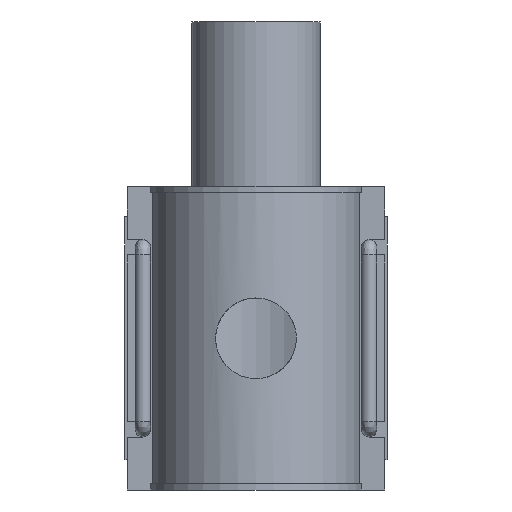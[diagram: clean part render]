
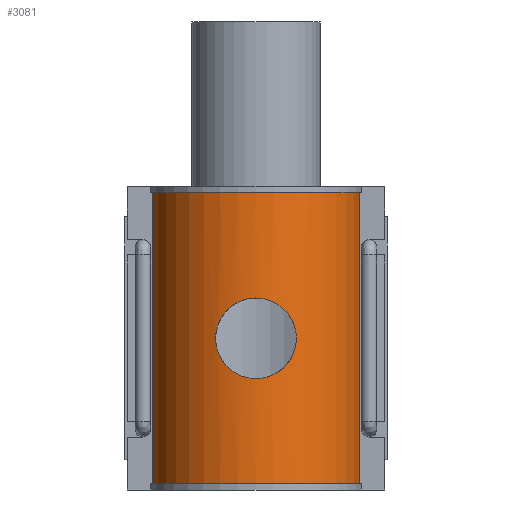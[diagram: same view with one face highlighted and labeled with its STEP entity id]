
A CAD part, front view. The second image highlights one B-rep face of the part: STEP entity #3081.
In plain terms, the highlighted cylindrical face has radius 40.95 mm (diameter 81.9 mm), a partial arc.
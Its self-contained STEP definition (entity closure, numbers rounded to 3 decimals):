
#42=FACE_BOUND('',#417,.T.);
#182=B_SPLINE_CURVE_WITH_KNOTS('',3,(#4557,#4558,#4559,#4560,#4561,#4562,
#4563,#4564,#4565,#4566,#4567,#4568,#4569,#4570,#4571,#4572,#4573,#4574,
#4575,#4576,#4577,#4578,#4579,#4580,#4581,#4582),.UNSPECIFIED.,.F.,.F.,
(4,2,2,2,2,2,2,2,2,2,2,2,4),(0.,0.299,0.598,1.195,
1.792,2.091,2.389,2.688,2.986,
3.583,4.181,4.48,4.779),
 .UNSPECIFIED.);
#183=B_SPLINE_CURVE_WITH_KNOTS('',3,(#4583,#4584,#4585,#4586,#4587,#4588,
#4589,#4590,#4591,#4592,#4593,#4594,#4595,#4596,#4597,#4598,#4599,#4600,
#4601,#4602,#4603,#4604,#4605,#4606,#4607,#4608),.UNSPECIFIED.,.F.,.F.,
(4,2,2,2,2,2,2,2,2,2,2,2,4),(4.779,5.077,5.376,
5.974,6.571,6.869,7.168,7.466,
7.765,8.362,8.959,9.258,9.557),
 .UNSPECIFIED.);
#232=FACE_OUTER_BOUND('',#416,.T.);
#416=EDGE_LOOP('',(#2214,#2215,#2216,#2217));
#417=EDGE_LOOP('',(#2218,#2219));
#613=CIRCLE('',#3284,40.95);
#621=CIRCLE('',#3298,40.95);
#755=LINE('',#4905,#1050);
#790=LINE('',#5129,#1085);
#1050=VECTOR('',#3635,10.);
#1085=VECTOR('',#3712,10.);
#1337=VERTEX_POINT('',#4554);
#1338=VERTEX_POINT('',#4556);
#1354=VERTEX_POINT('',#4890);
#1355=VERTEX_POINT('',#4892);
#1359=VERTEX_POINT('',#4904);
#1376=VERTEX_POINT('',#4947);
#1639=EDGE_CURVE('',#1338,#1337,#182,.T.);
#1640=EDGE_CURVE('',#1337,#1338,#183,.T.);
#1661=EDGE_CURVE('',#1354,#1355,#613,.T.);
#1666=EDGE_CURVE('',#1354,#1359,#755,.T.);
#1688=EDGE_CURVE('',#1376,#1359,#621,.T.);
#1723=EDGE_CURVE('',#1355,#1376,#790,.T.);
#2214=ORIENTED_EDGE('',*,*,#1661,.T.);
#2215=ORIENTED_EDGE('',*,*,#1723,.T.);
#2216=ORIENTED_EDGE('',*,*,#1688,.T.);
#2217=ORIENTED_EDGE('',*,*,#1666,.F.);
#2218=ORIENTED_EDGE('',*,*,#1639,.T.);
#2219=ORIENTED_EDGE('',*,*,#1640,.T.);
#3024=CYLINDRICAL_SURFACE('',#3308,40.95);
#3081=ADVANCED_FACE('',(#232,#42),#3024,.T.);
#3284=AXIS2_PLACEMENT_3D('',#4894,#3625,#3626);
#3298=AXIS2_PLACEMENT_3D('',#4948,#3672,#3673);
#3308=AXIS2_PLACEMENT_3D('',#5130,#3713,#3714);
#3625=DIRECTION('center_axis',(0.,0.,1.));
#3626=DIRECTION('ref_axis',(1.,0.,0.));
#3635=DIRECTION('',(0.,0.,1.));
#3672=DIRECTION('center_axis',(0.,0.,-1.));
#3673=DIRECTION('ref_axis',(1.,0.,0.));
#3712=DIRECTION('',(0.,0.,1.));
#3713=DIRECTION('center_axis',(0.,0.,1.));
#3714=DIRECTION('ref_axis',(1.,0.,0.));
#4554=CARTESIAN_POINT('',(-15.68,-37.829,0.));
#4556=CARTESIAN_POINT('',(15.68,-37.829,0.));
#4557=CARTESIAN_POINT('Ctrl Pts',(15.68,-37.829,0.));
#4558=CARTESIAN_POINT('Ctrl Pts',(15.68,-37.829,-0.996));
#4559=CARTESIAN_POINT('Ctrl Pts',(15.584,-37.87,-2.022));
#4560=CARTESIAN_POINT('Ctrl Pts',(15.182,-38.032,-4.056));
#4561=CARTESIAN_POINT('Ctrl Pts',(14.876,-38.155,-5.065));
#4562=CARTESIAN_POINT('Ctrl Pts',(13.672,-38.61,-7.957));
#4563=CARTESIAN_POINT('Ctrl Pts',(12.469,-39.032,-9.706));
#4564=CARTESIAN_POINT('Ctrl Pts',(9.707,-39.809,-12.468));
#4565=CARTESIAN_POINT('Ctrl Pts',(7.957,-40.217,-13.671));
#4566=CARTESIAN_POINT('Ctrl Pts',(5.064,-40.647,-14.876));
#4567=CARTESIAN_POINT('Ctrl Pts',(4.056,-40.761,-15.182));
#4568=CARTESIAN_POINT('Ctrl Pts',(2.021,-40.913,-15.584));
#4569=CARTESIAN_POINT('Ctrl Pts',(0.995,-40.95,-15.68));
#4570=CARTESIAN_POINT('Ctrl Pts',(-0.995,-40.95,-15.68));
#4571=CARTESIAN_POINT('Ctrl Pts',(-2.021,-40.913,-15.584));
#4572=CARTESIAN_POINT('Ctrl Pts',(-4.056,-40.761,-15.182));
#4573=CARTESIAN_POINT('Ctrl Pts',(-5.064,-40.647,-14.876));
#4574=CARTESIAN_POINT('Ctrl Pts',(-7.957,-40.217,-13.671));
#4575=CARTESIAN_POINT('Ctrl Pts',(-9.707,-39.809,-12.468));
#4576=CARTESIAN_POINT('Ctrl Pts',(-12.469,-39.032,-9.706));
#4577=CARTESIAN_POINT('Ctrl Pts',(-13.672,-38.61,-7.957));
#4578=CARTESIAN_POINT('Ctrl Pts',(-14.876,-38.155,-5.065));
#4579=CARTESIAN_POINT('Ctrl Pts',(-15.182,-38.032,-4.056));
#4580=CARTESIAN_POINT('Ctrl Pts',(-15.584,-37.87,-2.022));
#4581=CARTESIAN_POINT('Ctrl Pts',(-15.68,-37.829,-0.996));
#4582=CARTESIAN_POINT('Ctrl Pts',(-15.68,-37.829,0.));
#4583=CARTESIAN_POINT('Ctrl Pts',(-15.68,-37.829,0.));
#4584=CARTESIAN_POINT('Ctrl Pts',(-15.68,-37.829,0.996));
#4585=CARTESIAN_POINT('Ctrl Pts',(-15.584,-37.87,2.022));
#4586=CARTESIAN_POINT('Ctrl Pts',(-15.182,-38.032,4.056));
#4587=CARTESIAN_POINT('Ctrl Pts',(-14.876,-38.155,5.065));
#4588=CARTESIAN_POINT('Ctrl Pts',(-13.672,-38.61,7.957));
#4589=CARTESIAN_POINT('Ctrl Pts',(-12.469,-39.032,9.706));
#4590=CARTESIAN_POINT('Ctrl Pts',(-9.707,-39.809,12.468));
#4591=CARTESIAN_POINT('Ctrl Pts',(-7.957,-40.217,13.671));
#4592=CARTESIAN_POINT('Ctrl Pts',(-5.064,-40.647,14.876));
#4593=CARTESIAN_POINT('Ctrl Pts',(-4.056,-40.761,15.182));
#4594=CARTESIAN_POINT('Ctrl Pts',(-2.021,-40.913,15.584));
#4595=CARTESIAN_POINT('Ctrl Pts',(-0.995,-40.95,15.68));
#4596=CARTESIAN_POINT('Ctrl Pts',(0.995,-40.95,15.68));
#4597=CARTESIAN_POINT('Ctrl Pts',(2.021,-40.913,15.584));
#4598=CARTESIAN_POINT('Ctrl Pts',(4.056,-40.761,15.182));
#4599=CARTESIAN_POINT('Ctrl Pts',(5.064,-40.647,14.876));
#4600=CARTESIAN_POINT('Ctrl Pts',(7.957,-40.217,13.671));
#4601=CARTESIAN_POINT('Ctrl Pts',(9.707,-39.809,12.468));
#4602=CARTESIAN_POINT('Ctrl Pts',(12.469,-39.032,9.706));
#4603=CARTESIAN_POINT('Ctrl Pts',(13.672,-38.61,7.957));
#4604=CARTESIAN_POINT('Ctrl Pts',(14.876,-38.155,5.065));
#4605=CARTESIAN_POINT('Ctrl Pts',(15.182,-38.032,4.056));
#4606=CARTESIAN_POINT('Ctrl Pts',(15.584,-37.87,2.022));
#4607=CARTESIAN_POINT('Ctrl Pts',(15.68,-37.829,0.996));
#4608=CARTESIAN_POINT('Ctrl Pts',(15.68,-37.829,0.));
#4890=CARTESIAN_POINT('',(-40.186,-7.875,-56.64));
#4892=CARTESIAN_POINT('',(40.186,-7.875,-56.64));
#4894=CARTESIAN_POINT('Origin',(0.,0.,-56.64));
#4904=CARTESIAN_POINT('',(-40.186,-7.875,56.64));
#4905=CARTESIAN_POINT('',(-40.186,-7.875,0.));
#4947=CARTESIAN_POINT('',(40.186,-7.875,56.64));
#4948=CARTESIAN_POINT('Origin',(0.,0.,56.64));
#5129=CARTESIAN_POINT('',(40.186,-7.875,0.));
#5130=CARTESIAN_POINT('Origin',(0.,0.,0.));
